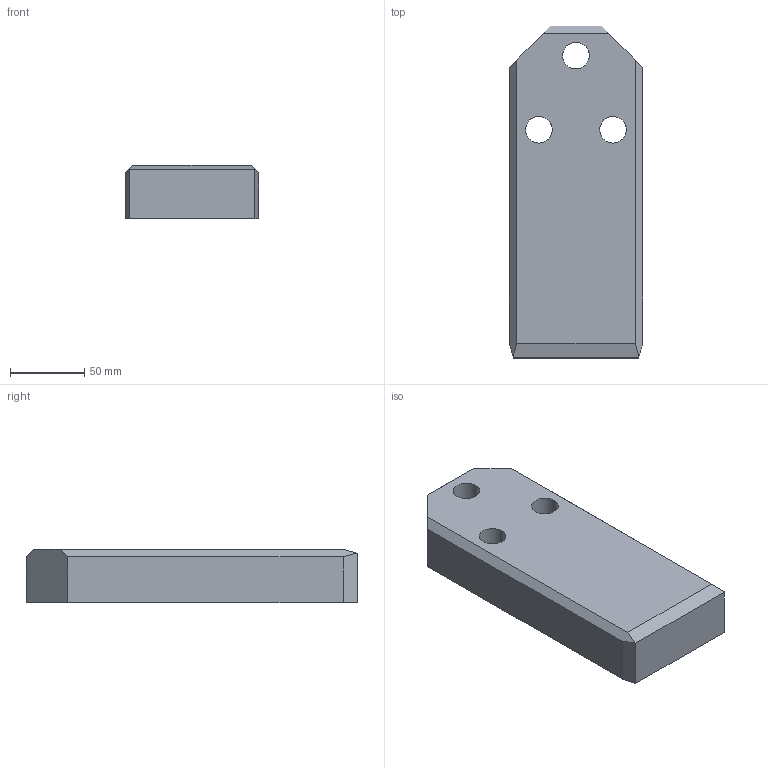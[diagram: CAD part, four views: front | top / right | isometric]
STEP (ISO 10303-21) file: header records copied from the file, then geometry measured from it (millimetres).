
FILE_DESCRIPTION(('CATIA V5 STEP Exchange'),'2;1');
FILE_NAME('C:\Users\borellobunino\Desktop\3D X SITO CF\A927\GSB_OILLESS_G2290509022436\STEP-2.03\A927-90X224X36.stp','2019-07-14T20:07:01+00:00',('none'),('none'),'CATIA Version 5 Release 20 GA (IN-10)','CATIA V5 STEP AP203','none');
FILE_SCHEMA(('CONFIG_CONTROL_DESIGN'));
Length unit declared in the file: millimetre
Products named in the file (1): A927-90X224X36
Bounding box: 90 x 224 x 36 mm (x, y, z)
Volume: 644762.5 mm3; surface area: 64356.8 mm2
Topology: 1 solids, 1 shells, 35 faces, 84 edges, 54 vertices
Faces by surface type: plane 17, cylinder 12, cone 6
Entity records: 1296 total; most frequent: CARTESIAN_POINT 450, ORIENTED_EDGE 168, DIRECTION 142, EDGE_CURVE 84, AXIS2_PLACEMENT_3D 54, VECTOR 54, LINE 54, VERTEX_POINT 54
